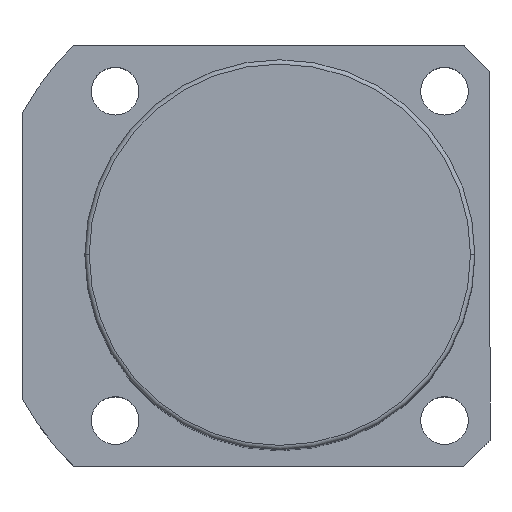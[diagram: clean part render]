
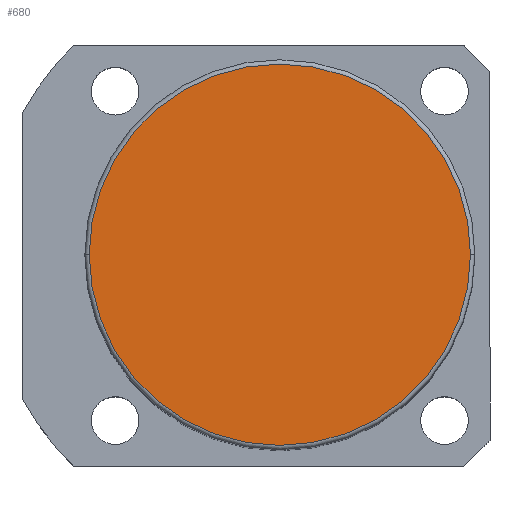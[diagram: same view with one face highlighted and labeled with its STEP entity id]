
A CAD part, top view. The second image highlights one B-rep face of the part: STEP entity #680.
In plain terms, the highlighted planar face has unit normal (0, 0, 1).
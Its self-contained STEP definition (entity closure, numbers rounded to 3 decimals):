
#22 = EDGE_CURVE ( 'NONE', #574, #523, #1786, .T. ) ;
#105 = CIRCLE ( 'NONE', #374, 44. ) ;
#142 = CARTESIAN_POINT ( 'NONE',  ( -44., 0., 166.5 ) ) ;
#328 = FACE_OUTER_BOUND ( 'NONE', #1159, .T. ) ;
#363 = DIRECTION ( 'NONE',  ( 1., 0., 0. ) ) ;
#374 = AXIS2_PLACEMENT_3D ( 'NONE', #2072, #1914, #1578 ) ;
#523 = VERTEX_POINT ( 'NONE', #1508 ) ;
#574 = VERTEX_POINT ( 'NONE', #142 ) ;
#680 = ADVANCED_FACE ( 'NONE', ( #328 ), #1932, .T. ) ;
#681 = EDGE_CURVE ( 'NONE', #523, #574, #105, .T. ) ;
#842 = CARTESIAN_POINT ( 'NONE',  ( 0., 0., 166.5 ) ) ;
#1125 = ORIENTED_EDGE ( 'NONE', *, *, #22, .T. ) ;
#1159 = EDGE_LOOP ( 'NONE', ( #1457, #1125 ) ) ;
#1319 = DIRECTION ( 'NONE',  ( 0., 0., 1. ) ) ;
#1335 = DIRECTION ( 'NONE',  ( 1., 0., 0. ) ) ;
#1444 = AXIS2_PLACEMENT_3D ( 'NONE', #842, #1319, #1335 ) ;
#1457 = ORIENTED_EDGE ( 'NONE', *, *, #681, .T. ) ;
#1508 = CARTESIAN_POINT ( 'NONE',  ( 44., 0., 166.5 ) ) ;
#1553 = DIRECTION ( 'NONE',  ( 0., 0., 1. ) ) ;
#1578 = DIRECTION ( 'NONE',  ( 1., 0., 0. ) ) ;
#1786 = CIRCLE ( 'NONE', #1444, 44. ) ;
#1914 = DIRECTION ( 'NONE',  ( 0., 0., 1. ) ) ;
#1927 = CARTESIAN_POINT ( 'NONE',  ( 0., 0., 166.5 ) ) ;
#1932 = PLANE ( 'NONE',  #2055 ) ;
#2055 = AXIS2_PLACEMENT_3D ( 'NONE', #1927, #1553, #363 ) ;
#2072 = CARTESIAN_POINT ( 'NONE',  ( 0., 0., 166.5 ) ) ;
